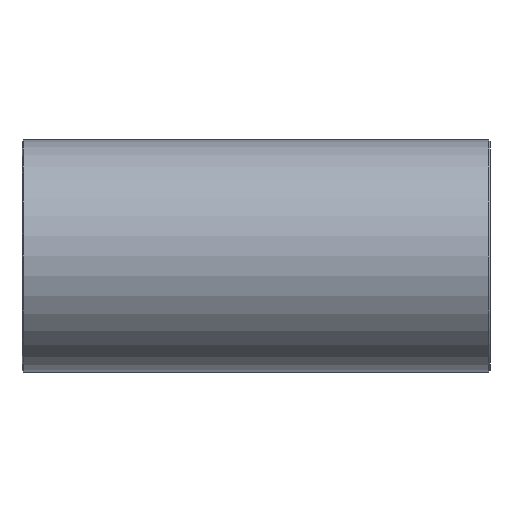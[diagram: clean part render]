
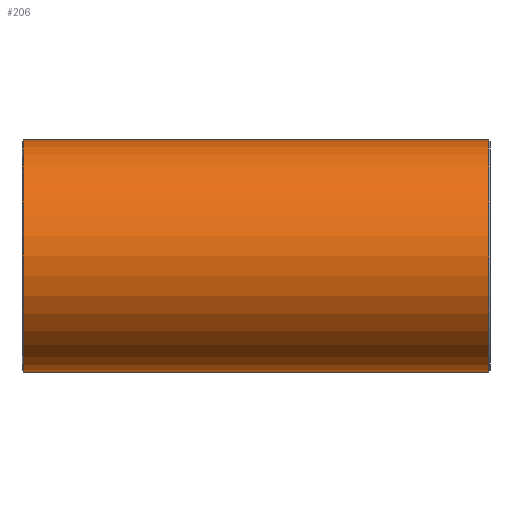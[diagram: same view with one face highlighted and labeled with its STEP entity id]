
A CAD part, front view. The second image highlights one B-rep face of the part: STEP entity #206.
In plain terms, the highlighted cylindrical face has radius 19.85 mm (diameter 39.7 mm), a full revolution.
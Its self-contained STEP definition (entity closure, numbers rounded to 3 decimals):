
#73=CARTESIAN_POINT('',(39.8,19.85,0.));
#74=VERTEX_POINT('',#73);
#75=CARTESIAN_POINT('',(39.8,0.0,0.0));
#76=DIRECTION('',(1.0,0.0,0.0));
#77=DIRECTION('',(0.0,-1.0,0.0));
#78=AXIS2_PLACEMENT_3D('',#75,#76,#77);
#79=CIRCLE('',#78,19.85);
#80=EDGE_CURVE('',#74,#74,#79,.T.);
#116=CARTESIAN_POINT('',(0.,0.0,0.0));
#117=DIRECTION('',(1.0,0.0,0.0));
#118=DIRECTION('',(0.0,1.0,0.0));
#119=AXIS2_PLACEMENT_3D('',#116,#117,#118);
#120=CYLINDRICAL_SURFACE('',#119,19.85);
#121=CARTESIAN_POINT('',(-39.8,19.85,0.));
#122=VERTEX_POINT('',#121);
#123=CARTESIAN_POINT('',(-39.8,0.0,0.0));
#124=DIRECTION('',(-1.0,0.0,0.0));
#125=DIRECTION('',(0.0,-1.0,0.0));
#126=AXIS2_PLACEMENT_3D('',#123,#124,#125);
#127=CIRCLE('',#126,19.85);
#128=EDGE_CURVE('',#122,#122,#127,.T.);
#129=ORIENTED_EDGE('',*,*,#128,.F.);
#130=EDGE_LOOP('',(#129));
#131=FACE_OUTER_BOUND('',#130,.T.);
#132=CARTESIAN_POINT('',(0.,10.487,16.854));
#133=VERTEX_POINT('',#132);
#134=CARTESIAN_POINT('',(0.,10.487,16.854));
#135=CARTESIAN_POINT('',(0.809,10.487,16.854));
#136=CARTESIAN_POINT('',(2.431,10.621,16.771));
#137=CARTESIAN_POINT('',(4.744,11.16,16.422));
#138=CARTESIAN_POINT('',(6.925,11.934,15.874));
#139=CARTESIAN_POINT('',(9.595,13.13,14.926));
#140=CARTESIAN_POINT('',(12.021,14.469,13.654));
#141=CARTESIAN_POINT('',(14.169,15.773,12.085));
#142=CARTESIAN_POINT('',(15.795,16.809,10.619));
#143=CARTESIAN_POINT('',(17.377,17.859,8.772));
#144=CARTESIAN_POINT('',(18.76,18.806,6.519));
#145=CARTESIAN_POINT('',(19.756,19.501,4.009));
#146=CARTESIAN_POINT('',(20.184,19.804,1.802));
#147=CARTESIAN_POINT('',(20.272,19.865,-0.002));
#148=CARTESIAN_POINT('',(20.207,19.819,-1.349));
#149=CARTESIAN_POINT('',(20.012,19.682,-2.689));
#150=CARTESIAN_POINT('',(19.589,19.385,-4.427));
#151=CARTESIAN_POINT('',(18.929,18.924,-6.096));
#152=CARTESIAN_POINT('',(18.062,18.328,-7.655));
#153=CARTESIAN_POINT('',(17.082,17.663,-9.118));
#154=CARTESIAN_POINT('',(15.652,16.714,-10.785));
#155=CARTESIAN_POINT('',(13.98,15.654,-12.239));
#156=CARTESIAN_POINT('',(12.523,14.78,-13.262));
#157=CARTESIAN_POINT('',(11.001,13.907,-14.188));
#158=CARTESIAN_POINT('',(8.938,12.818,-15.186));
#159=CARTESIAN_POINT('',(6.229,11.635,-16.101));
#160=CARTESIAN_POINT('',(3.739,10.881,-16.605));
#161=CARTESIAN_POINT('',(1.623,10.545,-16.817));
#162=CARTESIAN_POINT('',(0.003,10.458,-16.872));
#163=CARTESIAN_POINT('',(-1.617,10.545,-16.818));
#164=CARTESIAN_POINT('',(-3.734,10.88,-16.605));
#165=CARTESIAN_POINT('',(-6.222,11.631,-16.103));
#166=CARTESIAN_POINT('',(-8.505,12.63,-15.332));
#167=CARTESIAN_POINT('',(-10.183,13.476,-14.584));
#168=CARTESIAN_POINT('',(-11.791,14.348,-13.742));
#169=CARTESIAN_POINT('',(-13.663,15.454,-12.515));
#170=CARTESIAN_POINT('',(-15.321,16.504,-11.072));
#171=CARTESIAN_POINT('',(-16.509,17.283,-9.786));
#172=CARTESIAN_POINT('',(-17.788,18.137,-8.169));
#173=CARTESIAN_POINT('',(-18.894,18.9,-6.255));
#174=CARTESIAN_POINT('',(-19.811,19.54,-3.723));
#175=CARTESIAN_POINT('',(-20.184,19.803,-1.809));
#176=CARTESIAN_POINT('',(-20.272,19.865,-0.005));
#177=CARTESIAN_POINT('',(-20.186,19.805,1.792));
#178=CARTESIAN_POINT('',(-19.841,19.561,3.568));
#179=CARTESIAN_POINT('',(-19.263,19.157,5.252));
#180=CARTESIAN_POINT('',(-18.717,18.778,6.477));
#181=CARTESIAN_POINT('',(-18.068,18.333,7.645));
#182=CARTESIAN_POINT('',(-17.328,17.83,8.751));
#183=CARTESIAN_POINT('',(-16.513,17.286,9.78));
#184=CARTESIAN_POINT('',(-15.026,16.311,11.393));
#185=CARTESIAN_POINT('',(-13.122,15.115,12.932));
#186=CARTESIAN_POINT('',(-11.086,13.959,14.126));
#187=CARTESIAN_POINT('',(-9.863,13.313,14.728));
#188=CARTESIAN_POINT('',(-8.59,12.679,15.283));
#189=CARTESIAN_POINT('',(-6.91,11.929,15.878));
#190=CARTESIAN_POINT('',(-4.754,11.163,16.42));
#191=CARTESIAN_POINT('',(-2.814,10.71,16.714));
#192=CARTESIAN_POINT('',(-1.217,10.52,16.833));
#193=CARTESIAN_POINT('',(-0.405,10.487,16.854));
#194=CARTESIAN_POINT('',(0.,10.487,16.854));
#195=CARTESIAN_POINT('',(0.,10.487,16.854));
#196=CARTESIAN_POINT('',(0.,10.487,16.854));
#197=CARTESIAN_POINT('',(0.,10.487,16.854));
#198=B_SPLINE_CURVE_WITH_KNOTS('',3,(#134,#135,#136,#137,#138,#139,#140,#141,#142,#143,#144,#145,#146,#147,#148,#149,#150,#151,#152,#153,#154,#155,#156,#157,#158,#159,#160,#161,#162,#163,#164,#165,#166,#167,#168,#169,#170,#171,#172,#173,#174,#175,#176,#177,#178,#179,#180,#181,#182,#183,#184,#185,#186,#187,#188,#189,#190,#191,#192,#193,#194,#195,#196,#197),.UNSPECIFIED.,.T.,.U.,(4,1,1,1,1,1,1,1,1,1,1,1,1,1,1,1,1,1,1,1,1,1,1,1,1,1,1,1,1,1,1,1,1,1,1,1,1,1,1,1,1,1,1,1,1,1,1,1,1,1,1,1,1,1,1,1,1,1,3,4),(-10.557,-10.369,-10.18,-9.992,-9.803,-9.426,-9.238,-9.049,-8.798,-8.546,-8.295,-8.044,-7.918,-7.792,-7.667,-7.541,-7.29,-7.164,-7.038,-6.787,-6.536,-6.41,-6.284,-6.033,-5.781,-5.53,-5.404,-5.279,-5.153,-5.027,-4.776,-4.525,-4.399,-4.273,-4.022,-3.77,-3.645,-3.519,-3.184,-3.016,-2.765,-2.639,-2.514,-2.262,-2.137,-2.011,-1.885,-1.76,-1.634,-1.508,-1.131,-0.943,-0.848,-0.754,-0.566,-0.377,-0.189,-0.094,0.0,0.),.UNSPECIFIED.);
#199=EDGE_CURVE('',#133,#133,#198,.T.);
#200=ORIENTED_EDGE('',*,*,#199,.F.);
#201=EDGE_LOOP('',(#200));
#202=FACE_BOUND('',#201,.T.);
#203=ORIENTED_EDGE('',*,*,#80,.F.);
#204=EDGE_LOOP('',(#203));
#205=FACE_BOUND('',#204,.T.);
#206=ADVANCED_FACE('',(#131,#202,#205),#120,.T.);
